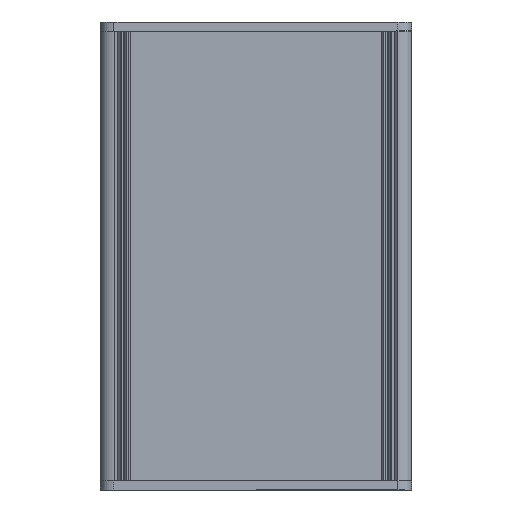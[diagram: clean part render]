
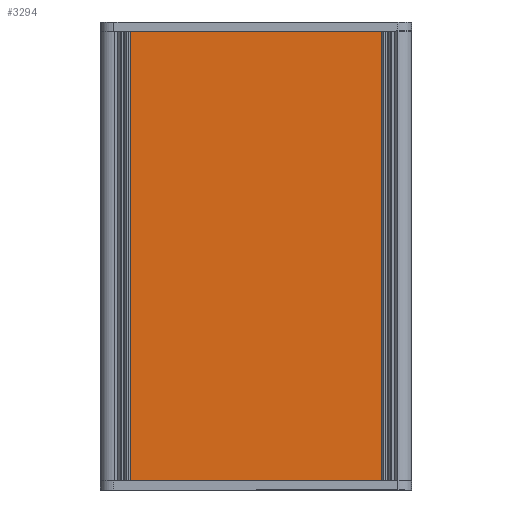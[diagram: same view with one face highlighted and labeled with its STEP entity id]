
A CAD part, front view. The second image highlights one B-rep face of the part: STEP entity #3294.
In plain terms, the highlighted planar face has unit normal (0, -1, 0).
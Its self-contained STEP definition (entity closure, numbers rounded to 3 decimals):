
#3236=CARTESIAN_POINT('',(62.4,-14.28,100.0));
#3237=VERTEX_POINT('',#3236);
#3245=CARTESIAN_POINT('',(62.4,-14.28,0.0));
#3246=VERTEX_POINT('',#3245);
#3247=CARTESIAN_POINT('',(62.4,-14.28,0.0));
#3248=DIRECTION('',(0.0,0.0,1.0));
#3249=VECTOR('',#3248,100.0);
#3250=LINE('',#3247,#3249);
#3251=EDGE_CURVE('',#3246,#3237,#3250,.T.);
#3264=CARTESIAN_POINT('',(62.4,-14.28,0.0));
#3265=DIRECTION('',(0.0,-1.0,0.0));
#3266=DIRECTION('',(0.0,0.0,-1.0));
#3267=AXIS2_PLACEMENT_3D('',#3264,#3265,#3266);
#3268=PLANE('',#3267);
#3269=CARTESIAN_POINT('',(6.7,-14.28,100.0));
#3270=VERTEX_POINT('',#3269);
#3271=CARTESIAN_POINT('',(62.4,-14.28,100.0));
#3272=DIRECTION('',(-1.0,0.0,0.0));
#3273=VECTOR('',#3272,55.7);
#3274=LINE('',#3271,#3273);
#3275=EDGE_CURVE('',#3237,#3270,#3274,.T.);
#3276=ORIENTED_EDGE('',*,*,#3275,.T.);
#3277=CARTESIAN_POINT('',(6.7,-14.28,0.0));
#3278=VERTEX_POINT('',#3277);
#3279=CARTESIAN_POINT('',(6.7,-14.28,0.0));
#3280=DIRECTION('',(0.0,0.0,1.0));
#3281=VECTOR('',#3280,100.0);
#3282=LINE('',#3279,#3281);
#3283=EDGE_CURVE('',#3278,#3270,#3282,.T.);
#3284=ORIENTED_EDGE('',*,*,#3283,.F.);
#3285=CARTESIAN_POINT('',(6.7,-14.28,0.0));
#3286=DIRECTION('',(1.0,0.0,0.0));
#3287=VECTOR('',#3286,55.7);
#3288=LINE('',#3285,#3287);
#3289=EDGE_CURVE('',#3278,#3246,#3288,.T.);
#3290=ORIENTED_EDGE('',*,*,#3289,.T.);
#3291=ORIENTED_EDGE('',*,*,#3251,.T.);
#3292=EDGE_LOOP('',(#3276,#3284,#3290,#3291));
#3293=FACE_OUTER_BOUND('',#3292,.T.);
#3294=ADVANCED_FACE('',(#3293),#3268,.T.);
